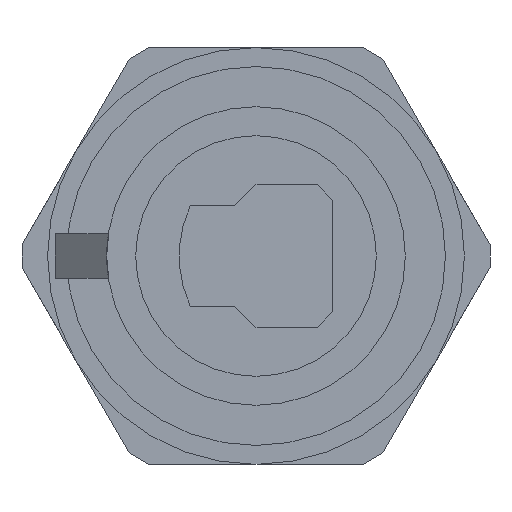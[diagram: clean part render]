
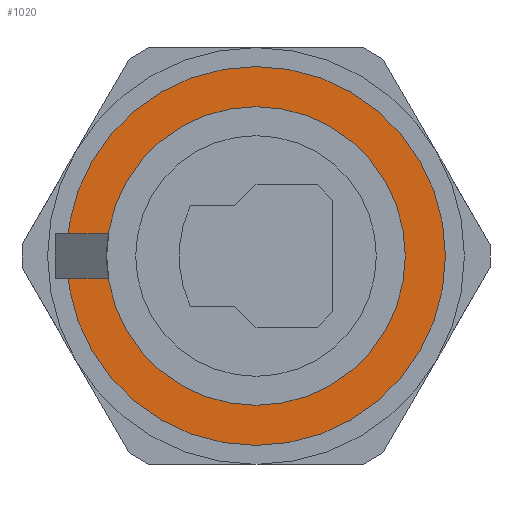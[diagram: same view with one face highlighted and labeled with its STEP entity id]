
A CAD part, left-side view. The second image highlights one B-rep face of the part: STEP entity #1020.
In plain terms, the highlighted planar face has unit normal (-1, 0, 0).
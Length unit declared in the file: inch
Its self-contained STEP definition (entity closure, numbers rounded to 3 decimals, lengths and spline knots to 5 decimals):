
#27=FACE_BOUND('',#197,.T.);
#68=PLANE('',#1127);
#128=FACE_OUTER_BOUND('',#196,.T.);
#196=EDGE_LOOP('',(#943));
#197=EDGE_LOOP('',(#944));
#236=CIRCLE('',#1095,0.425);
#243=CIRCLE('',#1117,0.25);
#489=VERTEX_POINT('',#5266);
#514=VERTEX_POINT('',#5343);
#613=EDGE_CURVE('',#489,#489,#236,.T.);
#650=EDGE_CURVE('',#514,#514,#243,.T.);
#943=ORIENTED_EDGE('',*,*,#613,.T.);
#944=ORIENTED_EDGE('',*,*,#650,.T.);
#1020=ADVANCED_FACE('',(#128,#27),#68,.T.);
#1095=AXIS2_PLACEMENT_3D('',#5267,#1287,#1288);
#1117=AXIS2_PLACEMENT_3D('',#5344,#1361,#1362);
#1127=AXIS2_PLACEMENT_3D('',#5370,#1390,#1391);
#1287=DIRECTION('center_axis',(-1.,0.,0.));
#1288=DIRECTION('ref_axis',(0.,-1.,0.));
#1361=DIRECTION('center_axis',(1.,0.,0.));
#1362=DIRECTION('ref_axis',(0.,1.,0.));
#1390=DIRECTION('center_axis',(-1.,0.,0.));
#1391=DIRECTION('ref_axis',(0.,0.,1.));
#5266=CARTESIAN_POINT('',(-0.07,0.425,0.));
#5267=CARTESIAN_POINT('Origin',(-0.07,0.,0.));
#5343=CARTESIAN_POINT('',(-0.07,-0.25,0.));
#5344=CARTESIAN_POINT('Origin',(-0.07,0.,
0.));
#5370=CARTESIAN_POINT('Origin',(-0.07,-0.425,0.));
